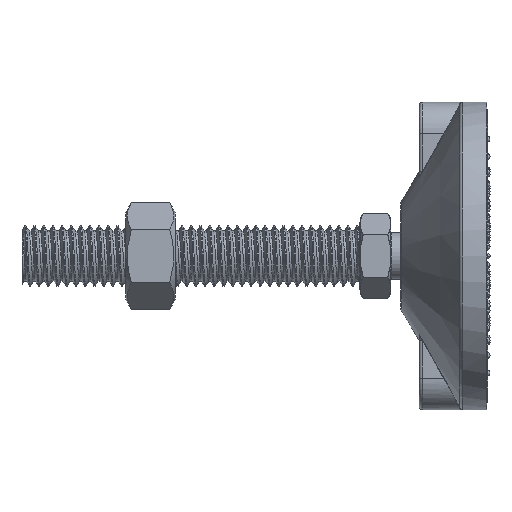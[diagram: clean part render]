
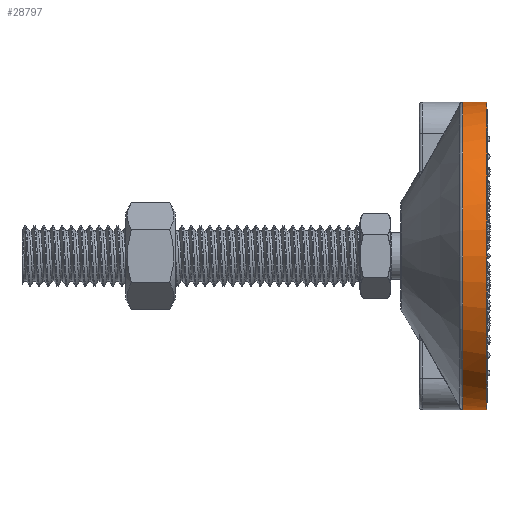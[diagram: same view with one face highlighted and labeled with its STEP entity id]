
A CAD part, left-side view. The second image highlights one B-rep face of the part: STEP entity #28797.
In plain terms, the highlighted cylindrical face has radius 50 mm (diameter 100 mm), a partial arc.
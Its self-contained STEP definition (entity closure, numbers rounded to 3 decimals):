
#1197 = CARTESIAN_POINT ( 'NONE',  ( 0., 0., -50. ) ) ;
#4017 = VERTEX_POINT ( 'NONE', #33475 ) ;
#5605 = B_SPLINE_CURVE_WITH_KNOTS ( 'NONE', 3,
 ( #46629, #21026, #8065, #42561 ),
 .UNSPECIFIED., .F., .F.,
 ( 4, 4 ),
 ( 0., 0.002 ),
 .UNSPECIFIED. ) ;
#7259 = CARTESIAN_POINT ( 'NONE',  ( -0.499, 8.408, -50. ) ) ;
#7923 = CARTESIAN_POINT ( 'NONE',  ( 0., 8.5, 50. ) ) ;
#8065 = CARTESIAN_POINT ( 'NONE',  ( -3.077, 7.934, 49.912 ) ) ;
#8960 = ORIENTED_EDGE ( 'NONE', *, *, #21846, .T. ) ;
#9566 = CARTESIAN_POINT ( 'NONE',  ( -3.883, 7.934, 49.849 ) ) ;
#11292 = VERTEX_POINT ( 'NONE', #32420 ) ;
#11880 = B_SPLINE_CURVE_WITH_KNOTS ( 'NONE', 3,
 ( #7923, #56532, #37858, #55383 ),
 .UNSPECIFIED., .F., .F.,
 ( 4, 4 ),
 ( 0., 0.002 ),
 .UNSPECIFIED. ) ;
#12418 = CARTESIAN_POINT ( 'NONE',  ( 0., 0., -50. ) ) ;
#12668 = CARTESIAN_POINT ( 'NONE',  ( -1.495, 8.21, -49.978 ) ) ;
#13480 = CARTESIAN_POINT ( 'NONE',  ( 0., 0., 50. ) ) ;
#13677 = EDGE_CURVE ( 'NONE', #11292, #56002, #52864, .T. ) ;
#13687 = CIRCLE ( 'NONE', #53190, 50. ) ;
#14747 = DIRECTION ( 'NONE',  ( 0., -1., 0. ) ) ;
#15905 = VERTEX_POINT ( 'NONE', #9566 ) ;
#16000 = B_SPLINE_CURVE_WITH_KNOTS ( 'NONE', 3,
 ( #42615, #41779, #7259, #54716 ),
 .UNSPECIFIED., .F., .F.,
 ( 4, 4 ),
 ( 0., 0.002 ),
 .UNSPECIFIED. ) ;
#16117 = DIRECTION ( 'NONE',  ( 0., 0., -1. ) ) ;
#18852 = VECTOR ( 'NONE', #56323, 1000. ) ;
#19231 = CARTESIAN_POINT ( 'NONE',  ( 0., 7.934, 0. ) ) ;
#19489 = DIRECTION ( 'NONE',  ( 0., 0., 1. ) ) ;
#21026 = CARTESIAN_POINT ( 'NONE',  ( -2.282, 8.038, 49.954 ) ) ;
#21451 = CARTESIAN_POINT ( 'NONE',  ( -3.883, 7.934, -49.849 ) ) ;
#21531 = ORIENTED_EDGE ( 'NONE', *, *, #46499, .T. ) ;
#21812 = AXIS2_PLACEMENT_3D ( 'NONE', #54150, #14747, #23101 ) ;
#21846 = EDGE_CURVE ( 'NONE', #11292, #4017, #11880, .T. ) ;
#22716 = ORIENTED_EDGE ( 'NONE', *, *, #52647, .F. ) ;
#23101 = DIRECTION ( 'NONE',  ( 0., 0., -1. ) ) ;
#24374 = DIRECTION ( 'NONE',  ( 0., -1., 0. ) ) ;
#24759 = CARTESIAN_POINT ( 'NONE',  ( 0., 0., 0. ) ) ;
#25248 = CIRCLE ( 'NONE', #53675, 50. ) ;
#27251 = ORIENTED_EDGE ( 'NONE', *, *, #13677, .F. ) ;
#28038 = VECTOR ( 'NONE', #42059, 1000. ) ;
#28759 = VERTEX_POINT ( 'NONE', #1197 ) ;
#28797 = ADVANCED_FACE ( 'NONE', ( #54410 ), #37166, .T. ) ;
#30469 = CARTESIAN_POINT ( 'NONE',  ( -3.883, 7.934, -49.849 ) ) ;
#30913 = EDGE_CURVE ( 'NONE', #37442, #28759, #33424, .T. ) ;
#32420 = CARTESIAN_POINT ( 'NONE',  ( 0., 8.5, 50. ) ) ;
#33424 = LINE ( 'NONE', #12418, #28038 ) ;
#33475 = CARTESIAN_POINT ( 'NONE',  ( -1.495, 8.21, 49.978 ) ) ;
#33568 = ORIENTED_EDGE ( 'NONE', *, *, #37549, .T. ) ;
#34871 = CARTESIAN_POINT ( 'NONE',  ( 0., 0., 50. ) ) ;
#36385 = VERTEX_POINT ( 'NONE', #21451 ) ;
#37166 = CYLINDRICAL_SURFACE ( 'NONE', #21812, 50. ) ;
#37442 = VERTEX_POINT ( 'NONE', #56073 ) ;
#37549 = EDGE_CURVE ( 'NONE', #36385, #49060, #46274, .T. ) ;
#37594 = ORIENTED_EDGE ( 'NONE', *, *, #47745, .T. ) ;
#37858 = CARTESIAN_POINT ( 'NONE',  ( -0.999, 8.318, 49.992 ) ) ;
#39707 = EDGE_CURVE ( 'NONE', #4017, #15905, #5605, .T. ) ;
#40023 = ORIENTED_EDGE ( 'NONE', *, *, #39707, .T. ) ;
#41570 = CARTESIAN_POINT ( 'NONE',  ( -1.495, 8.21, -49.978 ) ) ;
#41779 = CARTESIAN_POINT ( 'NONE',  ( -0.999, 8.318, -49.992 ) ) ;
#42059 = DIRECTION ( 'NONE',  ( 0., -1., 0. ) ) ;
#42561 = CARTESIAN_POINT ( 'NONE',  ( -3.883, 7.934, 49.849 ) ) ;
#42615 = CARTESIAN_POINT ( 'NONE',  ( -1.495, 8.21, -49.978 ) ) ;
#46274 = B_SPLINE_CURVE_WITH_KNOTS ( 'NONE', 3,
 ( #30469, #52612, #56355, #12668 ),
 .UNSPECIFIED., .F., .F.,
 ( 4, 4 ),
 ( 0., 0.002 ),
 .UNSPECIFIED. ) ;
#46499 = EDGE_CURVE ( 'NONE', #49060, #37442, #16000, .T. ) ;
#46629 = CARTESIAN_POINT ( 'NONE',  ( -1.495, 8.21, 49.978 ) ) ;
#47738 = DIRECTION ( 'NONE',  ( 0., -1., 0. ) ) ;
#47745 = EDGE_CURVE ( 'NONE', #15905, #36385, #13687, .T. ) ;
#49060 = VERTEX_POINT ( 'NONE', #41570 ) ;
#50382 = EDGE_LOOP ( 'NONE', ( #27251, #8960, #40023, #37594, #33568, #21531, #56290, #22716 ) ) ;
#52612 = CARTESIAN_POINT ( 'NONE',  ( -3.077, 7.934, -49.912 ) ) ;
#52647 = EDGE_CURVE ( 'NONE', #56002, #28759, #25248, .T. ) ;
#52864 = LINE ( 'NONE', #13480, #18852 ) ;
#53190 = AXIS2_PLACEMENT_3D ( 'NONE', #19231, #24374, #19489 ) ;
#53675 = AXIS2_PLACEMENT_3D ( 'NONE', #24759, #47738, #16117 ) ;
#54150 = CARTESIAN_POINT ( 'NONE',  ( 0., 0., 0. ) ) ;
#54410 = FACE_OUTER_BOUND ( 'NONE', #50382, .T. ) ;
#54716 = CARTESIAN_POINT ( 'NONE',  ( 0., 8.5, -50. ) ) ;
#55383 = CARTESIAN_POINT ( 'NONE',  ( -1.495, 8.21, 49.978 ) ) ;
#56002 = VERTEX_POINT ( 'NONE', #34871 ) ;
#56073 = CARTESIAN_POINT ( 'NONE',  ( 0., 8.5, -50. ) ) ;
#56290 = ORIENTED_EDGE ( 'NONE', *, *, #30913, .T. ) ;
#56323 = DIRECTION ( 'NONE',  ( 0., -1., 0. ) ) ;
#56355 = CARTESIAN_POINT ( 'NONE',  ( -2.282, 8.038, -49.954 ) ) ;
#56532 = CARTESIAN_POINT ( 'NONE',  ( -0.499, 8.408, 50. ) ) ;
